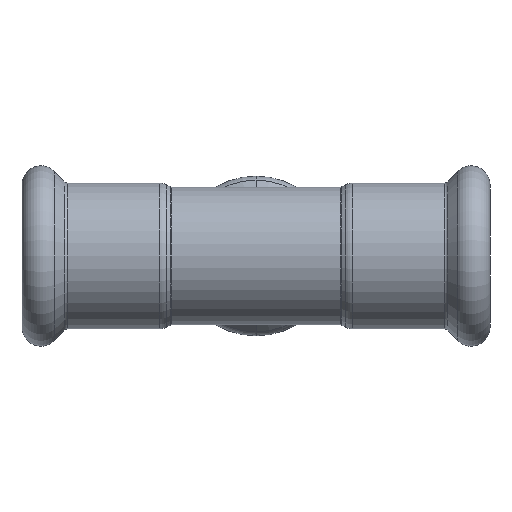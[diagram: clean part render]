
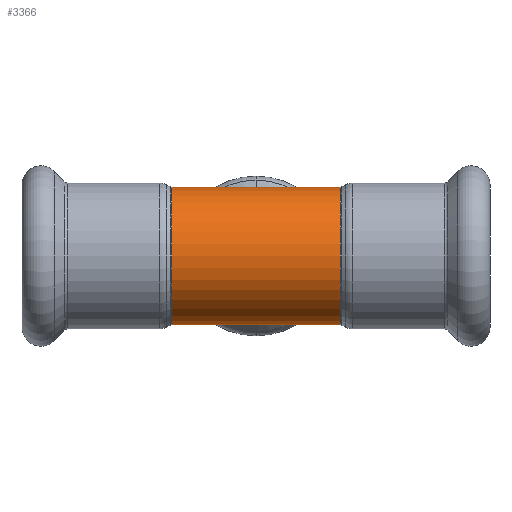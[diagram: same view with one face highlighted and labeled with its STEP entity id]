
A CAD part, front view. The second image highlights one B-rep face of the part: STEP entity #3366.
In plain terms, the highlighted cylindrical face has radius 10 mm (diameter 20 mm), a partial arc.
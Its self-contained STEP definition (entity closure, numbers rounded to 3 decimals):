
#264 = EDGE_CURVE ( 'NONE', #3403, #3146, #4180, .T. ) ;
#560 = CARTESIAN_POINT ( 'NONE',  ( 27.146, 0., 0. ) ) ;
#606 = LINE ( 'NONE', #3939, #2486 ) ;
#833 = CARTESIAN_POINT ( 'NONE',  ( 12.248, 0., 10. ) ) ;
#839 = ORIENTED_EDGE ( 'NONE', *, *, #264, .T. ) ;
#940 = DIRECTION ( 'NONE',  ( -1., 0., 0. ) ) ;
#1316 = CARTESIAN_POINT ( 'NONE',  ( -12.248, 0., 0. ) ) ;
#1388 = CIRCLE ( 'NONE', #3044, 10. ) ;
#1492 = EDGE_CURVE ( 'NONE', #3403, #2411, #2834, .T. ) ;
#1696 = EDGE_LOOP ( 'NONE', ( #1894, #839, #2472, #3992 ) ) ;
#1894 = ORIENTED_EDGE ( 'NONE', *, *, #1492, .F. ) ;
#2022 = DIRECTION ( 'NONE',  ( -1., 0., 0. ) ) ;
#2114 = CARTESIAN_POINT ( 'NONE',  ( -12.248, 0., 10. ) ) ;
#2130 = AXIS2_PLACEMENT_3D ( 'NONE', #4298, #2022, #4265 ) ;
#2239 = CARTESIAN_POINT ( 'NONE',  ( 27.146, 0., -10. ) ) ;
#2276 = FACE_OUTER_BOUND ( 'NONE', #1696, .T. ) ;
#2411 = VERTEX_POINT ( 'NONE', #4112 ) ;
#2472 = ORIENTED_EDGE ( 'NONE', *, *, #2854, .T. ) ;
#2486 = VECTOR ( 'NONE', #940, 1000. ) ;
#2645 = CYLINDRICAL_SURFACE ( 'NONE', #3254, 10. ) ;
#2820 = CARTESIAN_POINT ( 'NONE',  ( 12.248, 0., -10. ) ) ;
#2834 = LINE ( 'NONE', #2239, #2879 ) ;
#2854 = EDGE_CURVE ( 'NONE', #3146, #4088, #606, .T. ) ;
#2879 = VECTOR ( 'NONE', #2910, 1000. ) ;
#2910 = DIRECTION ( 'NONE',  ( -1., 0., 0. ) ) ;
#3044 = AXIS2_PLACEMENT_3D ( 'NONE', #1316, #3310, #3263 ) ;
#3146 = VERTEX_POINT ( 'NONE', #833 ) ;
#3254 = AXIS2_PLACEMENT_3D ( 'NONE', #560, #4214, #3951 ) ;
#3263 = DIRECTION ( 'NONE',  ( 0., 0., 1. ) ) ;
#3310 = DIRECTION ( 'NONE',  ( -1., 0., 0. ) ) ;
#3366 = ADVANCED_FACE ( 'NONE', ( #2276 ), #2645, .T. ) ;
#3367 = EDGE_CURVE ( 'NONE', #2411, #4088, #1388, .T. ) ;
#3403 = VERTEX_POINT ( 'NONE', #2820 ) ;
#3939 = CARTESIAN_POINT ( 'NONE',  ( 27.146, 0., 10. ) ) ;
#3951 = DIRECTION ( 'NONE',  ( 0., 0., 1. ) ) ;
#3992 = ORIENTED_EDGE ( 'NONE', *, *, #3367, .F. ) ;
#4088 = VERTEX_POINT ( 'NONE', #2114 ) ;
#4112 = CARTESIAN_POINT ( 'NONE',  ( -12.248, 0., -10. ) ) ;
#4180 = CIRCLE ( 'NONE', #2130, 10. ) ;
#4214 = DIRECTION ( 'NONE',  ( -1., 0., 0. ) ) ;
#4265 = DIRECTION ( 'NONE',  ( 0., 0., 1. ) ) ;
#4298 = CARTESIAN_POINT ( 'NONE',  ( 12.248, 0., 0. ) ) ;
